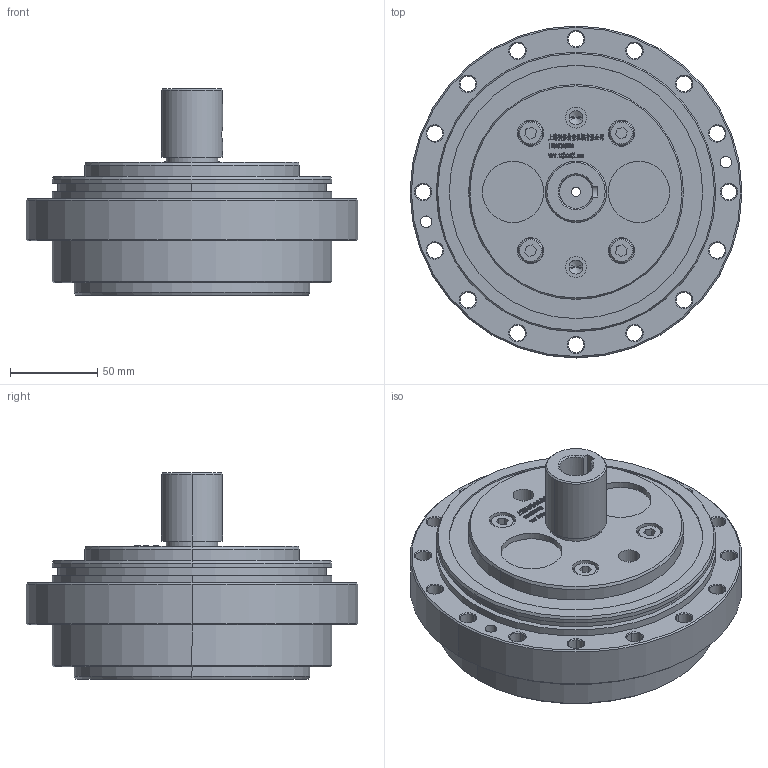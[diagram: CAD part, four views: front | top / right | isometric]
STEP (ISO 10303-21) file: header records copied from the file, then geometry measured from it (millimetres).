
FILE_DESCRIPTION (( 'STEP AP214' ), '1' );
FILE_NAME ('190BX-OP-std-19A.STEP', '2022-11-12T12:27:59', ( '' ), ( '' ), 'SwSTEP 2.0', 'SolidWorks 2020', '' );
FILE_SCHEMA (( 'AUTOMOTIVE_DESIGN' ));
Length unit declared in the file: millimetre
Products named in the file (1): 190BX-OP-std-19A
Bounding box: 190 x 190 x 118 mm (x, y, z)
Volume: 1522480.6 mm3; surface area: 157172.6 mm2
Topology: 1 solids, 5 shells, 1959 faces, 5387 edges, 3531 vertices
Faces by surface type: plane 1099, bspline 572, cone 152, cylinder 136
Entity records: 102682 total; most frequent: CARTESIAN_POINT 39080, ORIENTED_EDGE 10726, DIRECTION 7379, EDGE_CURVE 5363, LINE 3783, VECTOR 3783, VERTEX_POINT 3531, EDGE_LOOP 2120
